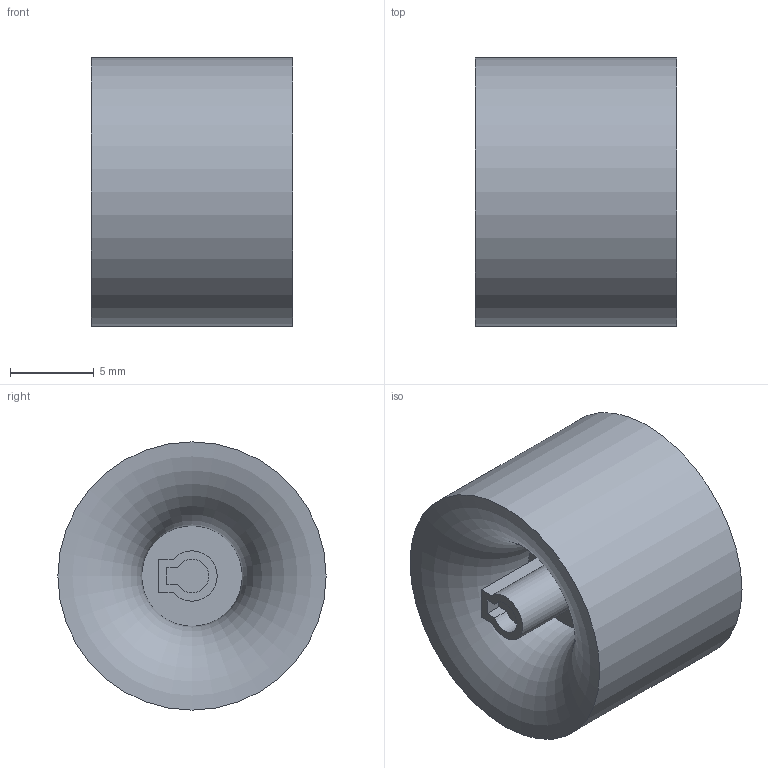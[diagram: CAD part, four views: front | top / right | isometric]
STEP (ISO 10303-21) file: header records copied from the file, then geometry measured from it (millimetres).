
FILE_DESCRIPTION(/* description */ (''),/* implementation_level */ '2;1');
FILE_NAME(/* name */ 'C:\Users\laura\OneDrive\Documents\_SQA Andrea\Assignment\2024\V1\STEP Files\Motor.stp',/* time_stamp */ '2022-10-06T11:07:14+01:00',/* author */ ('laura'),/* organization */ (''),/* preprocessor_version */ 'ST-DEVELOPER v18.1',/* originating_system */ 'Autodesk Inventor 2021',/* authorisation */ '');
FILE_SCHEMA (('AUTOMOTIVE_DESIGN { 1 0 10303 214 3 1 1 }'));
Length unit declared in the file: millimetre
Products named in the file (1): Motor
Bounding box: 12 x 16 x 16 mm (x, y, z)
Volume: 1683.1 mm3; surface area: 1715.9 mm2
Topology: 1 solids, 2 shells, 19 faces, 36 edges, 23 vertices
Faces by surface type: plane 12, cylinder 4, torus 3
Full cylindrical faces by diameter (mm): 12 x1, 16 x1
Entity records: 519 total; most frequent: DIRECTION 90, CARTESIAN_POINT 79, ORIENTED_EDGE 72, EDGE_CURVE 36, AXIS2_PLACEMENT_3D 34, VERTEX_POINT 23, LINE 22, VECTOR 22
